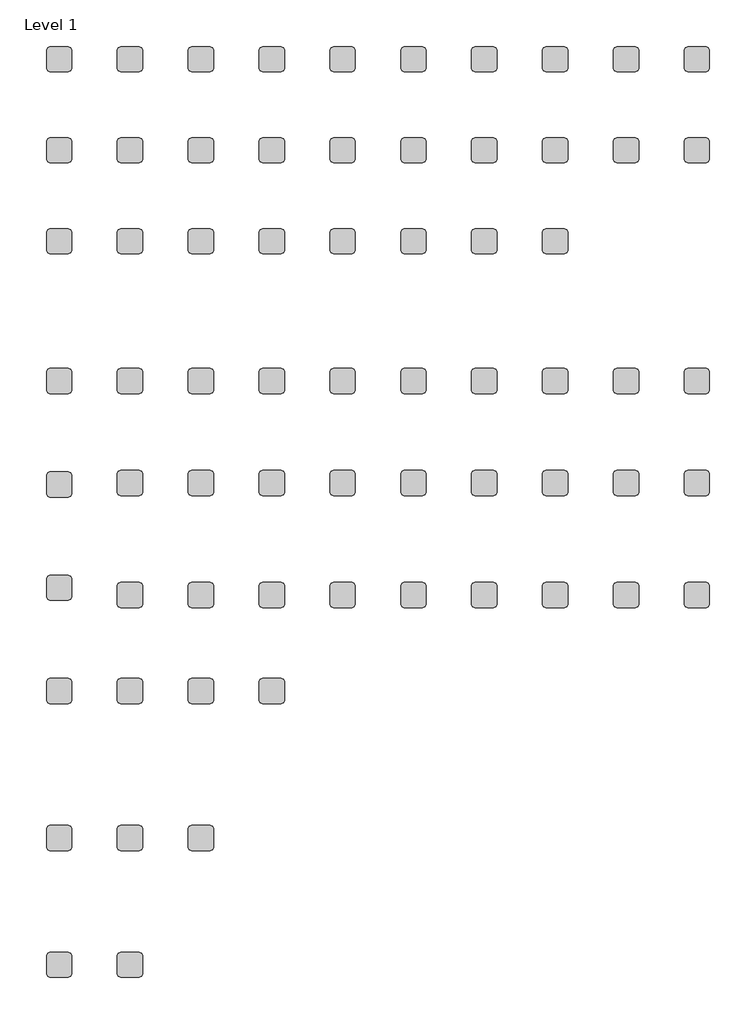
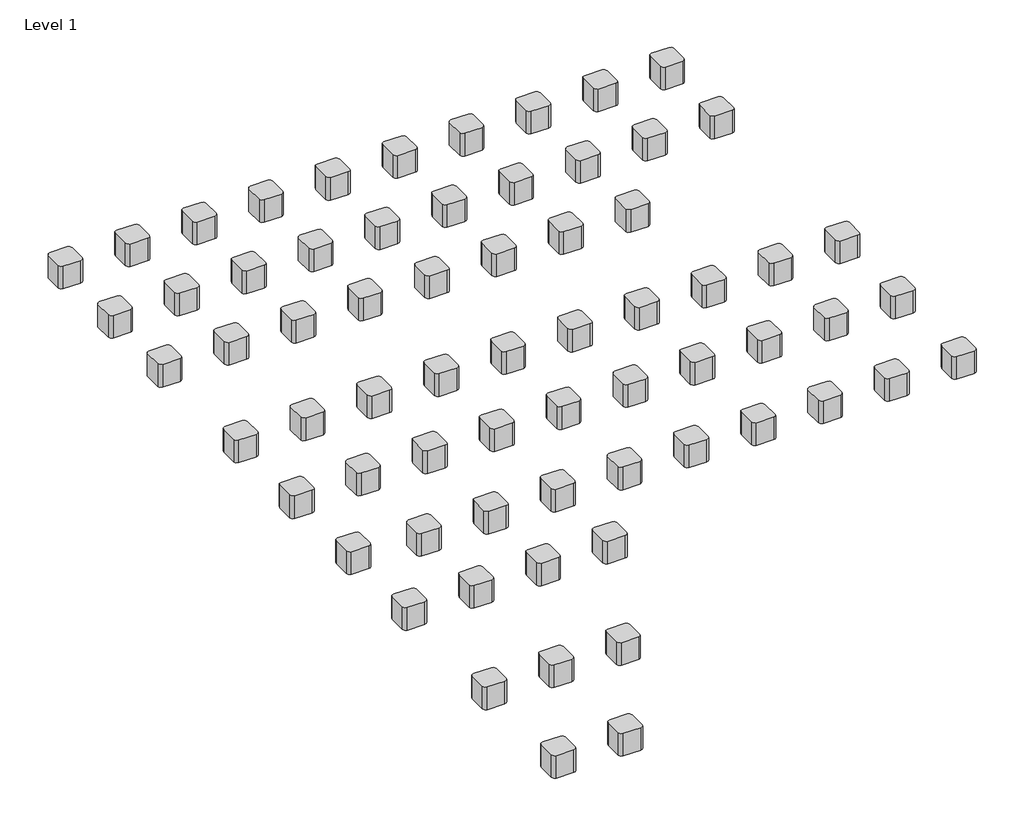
# One storey: 67 proxies.
"""IFC4 building model written with IfcOpenShell, lengths in millimetres."""

from ifc_helpers import new_model, si_unit, origin, place, context, project, spatial, transform, mapped, element, save
from components import material_cube_material_cube_d003602f

model = new_model("IFC4")

# Units and contexts
model_context = context("Model", 3, world=origin())
ifc_project = project(units=[si_unit("LENGTHUNIT", "METRE", prefix="MILLI")], contexts=[model_context])

# Site, building, storey
site = spatial("IfcSite", under=ifc_project)
building = spatial("IfcBuilding", under=site)
storey = spatial("IfcBuildingStorey", under=building, Name="Level 1", Elevation=0.0)

# Proxies
placement = place(None, origin())
material_cube_material_cube_shape = material_cube_material_cube_d003602f(model_context)
element("IfcBuildingElementProxy", 1, Name="Material Cube : Material Cube", ObjectType="Material Cube : Material Cube", at=placement, inside=storey, context=model_context, shape_type="MappedRepresentation", body=[
    mapped(material_cube_material_cube_shape, transform((-13627.1706411, -6641.3598103, 0.0), x_axis=(1.0, 0.0, 0.0), y_axis=(0.0, 1.0, 0.0), z_axis=(0.0, 0.0, 1.0))),
])
element("IfcBuildingElementProxy", 2, Name="Material Cube : Material Cube", ObjectType="Material Cube : Material Cube", at=placement, inside=storey, context=model_context, shape_type="MappedRepresentation", body=[
    mapped(material_cube_material_cube_shape, transform((-12558.7416718, -6641.3598103, 0.0), x_axis=(1.0, 0.0, 0.0), y_axis=(0.0, 1.0, 0.0), z_axis=(0.0, 0.0, 1.0))),
])
element("IfcBuildingElementProxy", 3, Name="Material Cube : Material Cube", ObjectType="Material Cube : Material Cube", at=placement, inside=storey, context=model_context, shape_type="MappedRepresentation", body=[
    mapped(material_cube_material_cube_shape, transform((-13627.1706411, -4730.711461, 0.0), x_axis=(1.0, 0.0, 0.0), y_axis=(0.0, 1.0, 0.0), z_axis=(0.0, 0.0, 1.0))),
])
element("IfcBuildingElementProxy", 4, Name="Material Cube : Material Cube", ObjectType="Material Cube : Material Cube", at=placement, inside=storey, context=model_context, shape_type="MappedRepresentation", body=[
    mapped(material_cube_material_cube_shape, transform((-12558.7416718, -4730.711461, 0.0), x_axis=(1.0, 0.0, 0.0), y_axis=(0.0, 1.0, 0.0), z_axis=(0.0, 0.0, 1.0))),
])
element("IfcBuildingElementProxy", 5, Name="Material Cube : Material Cube", ObjectType="Material Cube : Material Cube", at=placement, inside=storey, context=model_context, shape_type="MappedRepresentation", body=[
    mapped(material_cube_material_cube_shape, transform((-11490.3127025, -4730.711461, 0.0), x_axis=(1.0, 0.0, 0.0), y_axis=(0.0, 1.0, 0.0), z_axis=(0.0, 0.0, 1.0))),
])
element("IfcBuildingElementProxy", 6, Name="Material Cube : Material Cube", ObjectType="Material Cube : Material Cube", at=placement, inside=storey, context=model_context, shape_type="MappedRepresentation", body=[
    mapped(material_cube_material_cube_shape, transform((-13627.1706411, 7005.4918403, 0.0), x_axis=(1.0, 0.0, 0.0), y_axis=(0.0, 1.0, 0.0), z_axis=(0.0, 0.0, 1.0))),
])
element("IfcBuildingElementProxy", 7, Name="Material Cube : Material Cube", ObjectType="Material Cube : Material Cube", at=placement, inside=storey, context=model_context, shape_type="MappedRepresentation", body=[
    mapped(material_cube_material_cube_shape, transform((-12558.7416718, 7005.4918403, 0.0), x_axis=(1.0, 0.0, 0.0), y_axis=(0.0, 1.0, 0.0), z_axis=(0.0, 0.0, 1.0))),
])
element("IfcBuildingElementProxy", 8, Name="Material Cube : Material Cube", ObjectType="Material Cube : Material Cube", at=placement, inside=storey, context=model_context, shape_type="MappedRepresentation", body=[
    mapped(material_cube_material_cube_shape, transform((-11490.3127025, 7005.4918403, 0.0), x_axis=(1.0, 0.0, 0.0), y_axis=(0.0, 1.0, 0.0), z_axis=(0.0, 0.0, 1.0))),
])
element("IfcBuildingElementProxy", 9, Name="Material Cube : Material Cube", ObjectType="Material Cube : Material Cube", at=placement, inside=storey, context=model_context, shape_type="MappedRepresentation", body=[
    mapped(material_cube_material_cube_shape, transform((-10421.8837331, 7005.4918403, 0.0), x_axis=(1.0, 0.0, 0.0), y_axis=(0.0, 1.0, 0.0), z_axis=(0.0, 0.0, 1.0))),
])
element("IfcBuildingElementProxy", 10, Name="Material Cube : Material Cube", ObjectType="Material Cube : Material Cube", at=placement, inside=storey, context=model_context, shape_type="MappedRepresentation", body=[
    mapped(material_cube_material_cube_shape, transform((-9353.4547638, 7005.4918403, 0.0), x_axis=(1.0, 0.0, 0.0), y_axis=(0.0, 1.0, 0.0), z_axis=(0.0, 0.0, 1.0))),
])
element("IfcBuildingElementProxy", 11, Name="Material Cube : Material Cube", ObjectType="Material Cube : Material Cube", at=placement, inside=storey, context=model_context, shape_type="MappedRepresentation", body=[
    mapped(material_cube_material_cube_shape, transform((-8285.0257944, 7005.4918403, 0.0), x_axis=(1.0, 0.0, 0.0), y_axis=(0.0, 1.0, 0.0), z_axis=(0.0, 0.0, 1.0))),
])
element("IfcBuildingElementProxy", 12, Name="Material Cube : Material Cube", ObjectType="Material Cube : Material Cube", at=placement, inside=storey, context=model_context, shape_type="MappedRepresentation", body=[
    mapped(material_cube_material_cube_shape, transform((-7216.5968251, 7005.4918403, 0.0), x_axis=(1.0, 0.0, 0.0), y_axis=(0.0, 1.0, 0.0), z_axis=(0.0, 0.0, 1.0))),
])
element("IfcBuildingElementProxy", 13, Name="Material Cube : Material Cube", ObjectType="Material Cube : Material Cube", at=placement, inside=storey, context=model_context, shape_type="MappedRepresentation", body=[
    mapped(material_cube_material_cube_shape, transform((-6148.1678557, 7005.4918403, 0.0), x_axis=(1.0, 0.0, 0.0), y_axis=(0.0, 1.0, 0.0), z_axis=(0.0, 0.0, 1.0))),
])
element("IfcBuildingElementProxy", 14, Name="Material Cube : Material Cube", ObjectType="Material Cube : Material Cube", at=placement, inside=storey, context=model_context, shape_type="MappedRepresentation", body=[
    mapped(material_cube_material_cube_shape, transform((-5079.7388864, 7005.4918403, 0.0), x_axis=(1.0, 0.0, 0.0), y_axis=(0.0, 1.0, 0.0), z_axis=(0.0, 0.0, 1.0))),
])
element("IfcBuildingElementProxy", 15, Name="Material Cube : Material Cube", ObjectType="Material Cube : Material Cube", at=placement, inside=storey, context=model_context, shape_type="MappedRepresentation", body=[
    mapped(material_cube_material_cube_shape, transform((-4011.309917, 7005.4918403, 0.0), x_axis=(1.0, 0.0, 0.0), y_axis=(0.0, 1.0, 0.0), z_axis=(0.0, 0.0, 1.0))),
])
element("IfcBuildingElementProxy", 16, Name="Material Cube : Material Cube", ObjectType="Material Cube : Material Cube", at=placement, inside=storey, context=model_context, shape_type="MappedRepresentation", body=[
    mapped(material_cube_material_cube_shape, transform((-13627.1706411, 5633.8918403, 0.0), x_axis=(1.0, 0.0, 0.0), y_axis=(0.0, 1.0, 0.0), z_axis=(0.0, 0.0, 1.0))),
])
element("IfcBuildingElementProxy", 17, Name="Material Cube : Material Cube", ObjectType="Material Cube : Material Cube", at=placement, inside=storey, context=model_context, shape_type="MappedRepresentation", body=[
    mapped(material_cube_material_cube_shape, transform((-12558.7416718, 5633.8918403, 0.0), x_axis=(1.0, 0.0, 0.0), y_axis=(0.0, 1.0, 0.0), z_axis=(0.0, 0.0, 1.0))),
])
element("IfcBuildingElementProxy", 18, Name="Material Cube : Material Cube", ObjectType="Material Cube : Material Cube", at=placement, inside=storey, context=model_context, shape_type="MappedRepresentation", body=[
    mapped(material_cube_material_cube_shape, transform((-11490.3127025, 5633.8918403, 0.0), x_axis=(1.0, 0.0, 0.0), y_axis=(0.0, 1.0, 0.0), z_axis=(0.0, 0.0, 1.0))),
])
element("IfcBuildingElementProxy", 19, Name="Material Cube : Material Cube", ObjectType="Material Cube : Material Cube", at=placement, inside=storey, context=model_context, shape_type="MappedRepresentation", body=[
    mapped(material_cube_material_cube_shape, transform((-10421.8837331, 5633.8918403, 0.0), x_axis=(1.0, 0.0, 0.0), y_axis=(0.0, 1.0, 0.0), z_axis=(0.0, 0.0, 1.0))),
])
element("IfcBuildingElementProxy", 20, Name="Material Cube : Material Cube", ObjectType="Material Cube : Material Cube", at=placement, inside=storey, context=model_context, shape_type="MappedRepresentation", body=[
    mapped(material_cube_material_cube_shape, transform((-9353.4547638, 5633.8918403, 0.0), x_axis=(1.0, 0.0, 0.0), y_axis=(0.0, 1.0, 0.0), z_axis=(0.0, 0.0, 1.0))),
])
element("IfcBuildingElementProxy", 21, Name="Material Cube : Material Cube", ObjectType="Material Cube : Material Cube", at=placement, inside=storey, context=model_context, shape_type="MappedRepresentation", body=[
    mapped(material_cube_material_cube_shape, transform((-8285.0257944, 5633.8918403, 0.0), x_axis=(1.0, 0.0, 0.0), y_axis=(0.0, 1.0, 0.0), z_axis=(0.0, 0.0, 1.0))),
])
element("IfcBuildingElementProxy", 22, Name="Material Cube : Material Cube", ObjectType="Material Cube : Material Cube", at=placement, inside=storey, context=model_context, shape_type="MappedRepresentation", body=[
    mapped(material_cube_material_cube_shape, transform((-7216.5968251, 5633.8918403, 0.0), x_axis=(1.0, 0.0, 0.0), y_axis=(0.0, 1.0, 0.0), z_axis=(0.0, 0.0, 1.0))),
])
element("IfcBuildingElementProxy", 23, Name="Material Cube : Material Cube", ObjectType="Material Cube : Material Cube", at=placement, inside=storey, context=model_context, shape_type="MappedRepresentation", body=[
    mapped(material_cube_material_cube_shape, transform((-6148.1678557, 5633.8918403, 0.0), x_axis=(1.0, 0.0, 0.0), y_axis=(0.0, 1.0, 0.0), z_axis=(0.0, 0.0, 1.0))),
])
element("IfcBuildingElementProxy", 24, Name="Material Cube : Material Cube", ObjectType="Material Cube : Material Cube", at=placement, inside=storey, context=model_context, shape_type="MappedRepresentation", body=[
    mapped(material_cube_material_cube_shape, transform((-5079.7388864, 5633.8918403, 0.0), x_axis=(1.0, 0.0, 0.0), y_axis=(0.0, 1.0, 0.0), z_axis=(0.0, 0.0, 1.0))),
])
element("IfcBuildingElementProxy", 25, Name="Material Cube : Material Cube", ObjectType="Material Cube : Material Cube", at=placement, inside=storey, context=model_context, shape_type="MappedRepresentation", body=[
    mapped(material_cube_material_cube_shape, transform((-4011.309917, 5633.8918403, 0.0), x_axis=(1.0, 0.0, 0.0), y_axis=(0.0, 1.0, 0.0), z_axis=(0.0, 0.0, 1.0))),
])
element("IfcBuildingElementProxy", 26, Name="Material Cube : Material Cube", ObjectType="Material Cube : Material Cube", at=placement, inside=storey, context=model_context, shape_type="MappedRepresentation", body=[
    mapped(material_cube_material_cube_shape, transform((-13627.1706411, 4262.2918403, 0.0), x_axis=(1.0, 0.0, 0.0), y_axis=(0.0, 1.0, 0.0), z_axis=(0.0, 0.0, 1.0))),
])
element("IfcBuildingElementProxy", 27, Name="Material Cube : Material Cube", ObjectType="Material Cube : Material Cube", at=placement, inside=storey, context=model_context, shape_type="MappedRepresentation", body=[
    mapped(material_cube_material_cube_shape, transform((-12558.7416718, 4262.2918403, 0.0), x_axis=(1.0, 0.0, 0.0), y_axis=(0.0, 1.0, 0.0), z_axis=(0.0, 0.0, 1.0))),
])
element("IfcBuildingElementProxy", 28, Name="Material Cube : Material Cube", ObjectType="Material Cube : Material Cube", at=placement, inside=storey, context=model_context, shape_type="MappedRepresentation", body=[
    mapped(material_cube_material_cube_shape, transform((-11490.3127025, 4262.2918403, 0.0), x_axis=(1.0, 0.0, 0.0), y_axis=(0.0, 1.0, 0.0), z_axis=(0.0, 0.0, 1.0))),
])
element("IfcBuildingElementProxy", 29, Name="Material Cube : Material Cube", ObjectType="Material Cube : Material Cube", at=placement, inside=storey, context=model_context, shape_type="MappedRepresentation", body=[
    mapped(material_cube_material_cube_shape, transform((-10421.8837331, 4262.2918403, 0.0), x_axis=(1.0, 0.0, 0.0), y_axis=(0.0, 1.0, 0.0), z_axis=(0.0, 0.0, 1.0))),
])
element("IfcBuildingElementProxy", 30, Name="Material Cube : Material Cube", ObjectType="Material Cube : Material Cube", at=placement, inside=storey, context=model_context, shape_type="MappedRepresentation", body=[
    mapped(material_cube_material_cube_shape, transform((-9353.4547638, 4262.2918403, 0.0), x_axis=(1.0, 0.0, 0.0), y_axis=(0.0, 1.0, 0.0), z_axis=(0.0, 0.0, 1.0))),
])
element("IfcBuildingElementProxy", 31, Name="Material Cube : Material Cube", ObjectType="Material Cube : Material Cube", at=placement, inside=storey, context=model_context, shape_type="MappedRepresentation", body=[
    mapped(material_cube_material_cube_shape, transform((-8285.0257944, 4262.2918403, 0.0), x_axis=(1.0, 0.0, 0.0), y_axis=(0.0, 1.0, 0.0), z_axis=(0.0, 0.0, 1.0))),
])
element("IfcBuildingElementProxy", 32, Name="Material Cube : Material Cube", ObjectType="Material Cube : Material Cube", at=placement, inside=storey, context=model_context, shape_type="MappedRepresentation", body=[
    mapped(material_cube_material_cube_shape, transform((-7216.5968251, 4262.2918403, 0.0), x_axis=(1.0, 0.0, 0.0), y_axis=(0.0, 1.0, 0.0), z_axis=(0.0, 0.0, 1.0))),
])
element("IfcBuildingElementProxy", 33, Name="Material Cube : Material Cube", ObjectType="Material Cube : Material Cube", at=placement, inside=storey, context=model_context, shape_type="MappedRepresentation", body=[
    mapped(material_cube_material_cube_shape, transform((-6148.1678557, 4262.2918403, 0.0), x_axis=(1.0, 0.0, 0.0), y_axis=(0.0, 1.0, 0.0), z_axis=(0.0, 0.0, 1.0))),
])
element("IfcBuildingElementProxy", 34, Name="Material Cube : Material Cube", ObjectType="Material Cube : Material Cube", at=placement, inside=storey, context=model_context, shape_type="MappedRepresentation", body=[
    mapped(material_cube_material_cube_shape, transform((-13627.1706411, 2154.0918403, 0.0), x_axis=(1.0, 0.0, 0.0), y_axis=(0.0, 1.0, 0.0), z_axis=(0.0, 0.0, 1.0))),
])
element("IfcBuildingElementProxy", 35, Name="Material Cube : Material Cube", ObjectType="Material Cube : Material Cube", at=placement, inside=storey, context=model_context, shape_type="MappedRepresentation", body=[
    mapped(material_cube_material_cube_shape, transform((-12558.7416718, 2154.0918403, 0.0), x_axis=(1.0, 0.0, 0.0), y_axis=(0.0, 1.0, 0.0), z_axis=(0.0, 0.0, 1.0))),
])
element("IfcBuildingElementProxy", 36, Name="Material Cube : Material Cube", ObjectType="Material Cube : Material Cube", at=placement, inside=storey, context=model_context, shape_type="MappedRepresentation", body=[
    mapped(material_cube_material_cube_shape, transform((-11490.3127025, 2154.0918403, 0.0), x_axis=(1.0, 0.0, 0.0), y_axis=(0.0, 1.0, 0.0), z_axis=(0.0, 0.0, 1.0))),
])
element("IfcBuildingElementProxy", 37, Name="Material Cube : Material Cube", ObjectType="Material Cube : Material Cube", at=placement, inside=storey, context=model_context, shape_type="MappedRepresentation", body=[
    mapped(material_cube_material_cube_shape, transform((-10421.8837331, 2154.0918403, 0.0), x_axis=(1.0, 0.0, 0.0), y_axis=(0.0, 1.0, 0.0), z_axis=(0.0, 0.0, 1.0))),
])
element("IfcBuildingElementProxy", 38, Name="Material Cube : Material Cube", ObjectType="Material Cube : Material Cube", at=placement, inside=storey, context=model_context, shape_type="MappedRepresentation", body=[
    mapped(material_cube_material_cube_shape, transform((-9353.4547638, 2154.0918403, 0.0), x_axis=(1.0, 0.0, 0.0), y_axis=(0.0, 1.0, 0.0), z_axis=(0.0, 0.0, 1.0))),
])
element("IfcBuildingElementProxy", 39, Name="Material Cube : Material Cube", ObjectType="Material Cube : Material Cube", at=placement, inside=storey, context=model_context, shape_type="MappedRepresentation", body=[
    mapped(material_cube_material_cube_shape, transform((-8285.0257944, 2154.0918403, 0.0), x_axis=(1.0, 0.0, 0.0), y_axis=(0.0, 1.0, 0.0), z_axis=(0.0, 0.0, 1.0))),
])
element("IfcBuildingElementProxy", 40, Name="Material Cube : Material Cube", ObjectType="Material Cube : Material Cube", at=placement, inside=storey, context=model_context, shape_type="MappedRepresentation", body=[
    mapped(material_cube_material_cube_shape, transform((-7216.5968251, 2154.0918403, 0.0), x_axis=(1.0, 0.0, 0.0), y_axis=(0.0, 1.0, 0.0), z_axis=(0.0, 0.0, 1.0))),
])
element("IfcBuildingElementProxy", 41, Name="Material Cube : Material Cube", ObjectType="Material Cube : Material Cube", at=placement, inside=storey, context=model_context, shape_type="MappedRepresentation", body=[
    mapped(material_cube_material_cube_shape, transform((-6148.1678557, 2154.0918403, 0.0), x_axis=(1.0, 0.0, 0.0), y_axis=(0.0, 1.0, 0.0), z_axis=(0.0, 0.0, 1.0))),
])
element("IfcBuildingElementProxy", 42, Name="Material Cube : Material Cube", ObjectType="Material Cube : Material Cube", at=placement, inside=storey, context=model_context, shape_type="MappedRepresentation", body=[
    mapped(material_cube_material_cube_shape, transform((-5079.7388864, 2154.0918403, 0.0), x_axis=(1.0, 0.0, 0.0), y_axis=(0.0, 1.0, 0.0), z_axis=(0.0, 0.0, 1.0))),
])
element("IfcBuildingElementProxy", 43, Name="Material Cube : Material Cube", ObjectType="Material Cube : Material Cube", at=placement, inside=storey, context=model_context, shape_type="MappedRepresentation", body=[
    mapped(material_cube_material_cube_shape, transform((-4011.309917, 2154.0918403, 0.0), x_axis=(1.0, 0.0, 0.0), y_axis=(0.0, 1.0, 0.0), z_axis=(0.0, 0.0, 1.0))),
])
element("IfcBuildingElementProxy", 44, Name="Material Cube : Material Cube", ObjectType="Material Cube : Material Cube", at=placement, inside=storey, context=model_context, shape_type="MappedRepresentation", body=[
    mapped(material_cube_material_cube_shape, transform((-13627.1706411, 597.6401897, 0.0), x_axis=(1.0, 0.0, 0.0), y_axis=(0.0, 1.0, 0.0), z_axis=(0.0, 0.0, 1.0))),
])
element("IfcBuildingElementProxy", 45, Name="Material Cube : Material Cube", ObjectType="Material Cube : Material Cube", at=placement, inside=storey, context=model_context, shape_type="MappedRepresentation", body=[
    mapped(material_cube_material_cube_shape, transform((-12558.7416718, 617.5727865, 0.0), x_axis=(1.0, 0.0, 0.0), y_axis=(0.0, 1.0, 0.0), z_axis=(0.0, 0.0, 1.0))),
])
element("IfcBuildingElementProxy", 46, Name="Material Cube : Material Cube", ObjectType="Material Cube : Material Cube", at=placement, inside=storey, context=model_context, shape_type="MappedRepresentation", body=[
    mapped(material_cube_material_cube_shape, transform((-11490.3127025, 617.5727865, 0.0), x_axis=(1.0, 0.0, 0.0), y_axis=(0.0, 1.0, 0.0), z_axis=(0.0, 0.0, 1.0))),
])
element("IfcBuildingElementProxy", 47, Name="Material Cube : Material Cube", ObjectType="Material Cube : Material Cube", at=placement, inside=storey, context=model_context, shape_type="MappedRepresentation", body=[
    mapped(material_cube_material_cube_shape, transform((-10421.8837331, 617.5727865, 0.0), x_axis=(1.0, 0.0, 0.0), y_axis=(0.0, 1.0, 0.0), z_axis=(0.0, 0.0, 1.0))),
])
element("IfcBuildingElementProxy", 48, Name="Material Cube : Material Cube", ObjectType="Material Cube : Material Cube", at=placement, inside=storey, context=model_context, shape_type="MappedRepresentation", body=[
    mapped(material_cube_material_cube_shape, transform((-9353.4547638, 617.5727865, 0.0), x_axis=(1.0, 0.0, 0.0), y_axis=(0.0, 1.0, 0.0), z_axis=(0.0, 0.0, 1.0))),
])
element("IfcBuildingElementProxy", 49, Name="Material Cube : Material Cube", ObjectType="Material Cube : Material Cube", at=placement, inside=storey, context=model_context, shape_type="MappedRepresentation", body=[
    mapped(material_cube_material_cube_shape, transform((-8285.0257944, 617.5727865, 0.0), x_axis=(1.0, 0.0, 0.0), y_axis=(0.0, 1.0, 0.0), z_axis=(0.0, 0.0, 1.0))),
])
element("IfcBuildingElementProxy", 50, Name="Material Cube : Material Cube", ObjectType="Material Cube : Material Cube", at=placement, inside=storey, context=model_context, shape_type="MappedRepresentation", body=[
    mapped(material_cube_material_cube_shape, transform((-7216.5968251, 617.5727865, 0.0), x_axis=(1.0, 0.0, 0.0), y_axis=(0.0, 1.0, 0.0), z_axis=(0.0, 0.0, 1.0))),
])
element("IfcBuildingElementProxy", 51, Name="Material Cube : Material Cube", ObjectType="Material Cube : Material Cube", at=placement, inside=storey, context=model_context, shape_type="MappedRepresentation", body=[
    mapped(material_cube_material_cube_shape, transform((-6148.1678557, 617.5727865, 0.0), x_axis=(1.0, 0.0, 0.0), y_axis=(0.0, 1.0, 0.0), z_axis=(0.0, 0.0, 1.0))),
])
element("IfcBuildingElementProxy", 52, Name="Material Cube : Material Cube", ObjectType="Material Cube : Material Cube", at=placement, inside=storey, context=model_context, shape_type="MappedRepresentation", body=[
    mapped(material_cube_material_cube_shape, transform((-5079.7388864, 617.5727865, 0.0), x_axis=(1.0, 0.0, 0.0), y_axis=(0.0, 1.0, 0.0), z_axis=(0.0, 0.0, 1.0))),
])
element("IfcBuildingElementProxy", 53, Name="Material Cube : Material Cube", ObjectType="Material Cube : Material Cube", at=placement, inside=storey, context=model_context, shape_type="MappedRepresentation", body=[
    mapped(material_cube_material_cube_shape, transform((-4011.309917, 617.5727865, 0.0), x_axis=(1.0, 0.0, 0.0), y_axis=(0.0, 1.0, 0.0), z_axis=(0.0, 0.0, 1.0))),
])
element("IfcBuildingElementProxy", 54, Name="Material Cube : Material Cube", ObjectType="Material Cube : Material Cube", at=placement, inside=storey, context=model_context, shape_type="MappedRepresentation", body=[
    mapped(material_cube_material_cube_shape, transform((-13627.1706411, -958.811461, 0.0), x_axis=(1.0, 0.0, 0.0), y_axis=(0.0, 1.0, 0.0), z_axis=(0.0, 0.0, 1.0))),
])
element("IfcBuildingElementProxy", 55, Name="Material Cube : Material Cube", ObjectType="Material Cube : Material Cube", at=placement, inside=storey, context=model_context, shape_type="MappedRepresentation", body=[
    mapped(material_cube_material_cube_shape, transform((-12558.7416718, -1068.1532425, 0.0), x_axis=(1.0, 0.0, 0.0), y_axis=(0.0, 1.0, 0.0), z_axis=(0.0, 0.0, 1.0))),
])
element("IfcBuildingElementProxy", 56, Name="Material Cube : Material Cube", ObjectType="Material Cube : Material Cube", at=placement, inside=storey, context=model_context, shape_type="MappedRepresentation", body=[
    mapped(material_cube_material_cube_shape, transform((-11490.3127025, -1068.1532425, 0.0), x_axis=(1.0, 0.0, 0.0), y_axis=(0.0, 1.0, 0.0), z_axis=(0.0, 0.0, 1.0))),
])
element("IfcBuildingElementProxy", 57, Name="Material Cube : Material Cube", ObjectType="Material Cube : Material Cube", at=placement, inside=storey, context=model_context, shape_type="MappedRepresentation", body=[
    mapped(material_cube_material_cube_shape, transform((-10421.8837331, -1068.1532425, 0.0), x_axis=(1.0, 0.0, 0.0), y_axis=(0.0, 1.0, 0.0), z_axis=(0.0, 0.0, 1.0))),
])
element("IfcBuildingElementProxy", 58, Name="Material Cube : Material Cube", ObjectType="Material Cube : Material Cube", at=placement, inside=storey, context=model_context, shape_type="MappedRepresentation", body=[
    mapped(material_cube_material_cube_shape, transform((-9353.4547638, -1068.1532425, 0.0), x_axis=(1.0, 0.0, 0.0), y_axis=(0.0, 1.0, 0.0), z_axis=(0.0, 0.0, 1.0))),
])
element("IfcBuildingElementProxy", 59, Name="Material Cube : Material Cube", ObjectType="Material Cube : Material Cube", at=placement, inside=storey, context=model_context, shape_type="MappedRepresentation", body=[
    mapped(material_cube_material_cube_shape, transform((-8285.0257944, -1068.1532425, 0.0), x_axis=(1.0, 0.0, 0.0), y_axis=(0.0, 1.0, 0.0), z_axis=(0.0, 0.0, 1.0))),
])
element("IfcBuildingElementProxy", 60, Name="Material Cube : Material Cube", ObjectType="Material Cube : Material Cube", at=placement, inside=storey, context=model_context, shape_type="MappedRepresentation", body=[
    mapped(material_cube_material_cube_shape, transform((-7216.5968251, -1068.1532425, 0.0), x_axis=(1.0, 0.0, 0.0), y_axis=(0.0, 1.0, 0.0), z_axis=(0.0, 0.0, 1.0))),
])
element("IfcBuildingElementProxy", 61, Name="Material Cube : Material Cube", ObjectType="Material Cube : Material Cube", at=placement, inside=storey, context=model_context, shape_type="MappedRepresentation", body=[
    mapped(material_cube_material_cube_shape, transform((-6148.1678557, -1068.1532425, 0.0), x_axis=(1.0, 0.0, 0.0), y_axis=(0.0, 1.0, 0.0), z_axis=(0.0, 0.0, 1.0))),
])
element("IfcBuildingElementProxy", 62, Name="Material Cube : Material Cube", ObjectType="Material Cube : Material Cube", at=placement, inside=storey, context=model_context, shape_type="MappedRepresentation", body=[
    mapped(material_cube_material_cube_shape, transform((-5079.7388864, -1068.1532425, 0.0), x_axis=(1.0, 0.0, 0.0), y_axis=(0.0, 1.0, 0.0), z_axis=(0.0, 0.0, 1.0))),
])
element("IfcBuildingElementProxy", 63, Name="Material Cube : Material Cube", ObjectType="Material Cube : Material Cube", at=placement, inside=storey, context=model_context, shape_type="MappedRepresentation", body=[
    mapped(material_cube_material_cube_shape, transform((-4011.309917, -1068.1532425, 0.0), x_axis=(1.0, 0.0, 0.0), y_axis=(0.0, 1.0, 0.0), z_axis=(0.0, 0.0, 1.0))),
])
element("IfcBuildingElementProxy", 64, Name="Material Cube : Material Cube", ObjectType="Material Cube : Material Cube", at=placement, inside=storey, context=model_context, shape_type="MappedRepresentation", body=[
    mapped(material_cube_material_cube_shape, transform((-13627.1706411, -2515.2631116, 0.0), x_axis=(1.0, 0.0, 0.0), y_axis=(0.0, 1.0, 0.0), z_axis=(0.0, 0.0, 1.0))),
])
element("IfcBuildingElementProxy", 65, Name="Material Cube : Material Cube", ObjectType="Material Cube : Material Cube", at=placement, inside=storey, context=model_context, shape_type="MappedRepresentation", body=[
    mapped(material_cube_material_cube_shape, transform((-12558.7416718, -2515.2631116, 0.0), x_axis=(1.0, 0.0, 0.0), y_axis=(0.0, 1.0, 0.0), z_axis=(0.0, 0.0, 1.0))),
])
element("IfcBuildingElementProxy", 66, Name="Material Cube : Material Cube", ObjectType="Material Cube : Material Cube", at=placement, inside=storey, context=model_context, shape_type="MappedRepresentation", body=[
    mapped(material_cube_material_cube_shape, transform((-11490.3127025, -2515.2631116, 0.0), x_axis=(1.0, 0.0, 0.0), y_axis=(0.0, 1.0, 0.0), z_axis=(0.0, 0.0, 1.0))),
])
element("IfcBuildingElementProxy", 67, Name="Material Cube : Material Cube", ObjectType="Material Cube : Material Cube", at=placement, inside=storey, context=model_context, shape_type="MappedRepresentation", body=[
    mapped(material_cube_material_cube_shape, transform((-10421.8837331, -2515.2631116, 0.0), x_axis=(1.0, 0.0, 0.0), y_axis=(0.0, 1.0, 0.0), z_axis=(0.0, 0.0, 1.0))),
])

save(model, "model.ifc")
